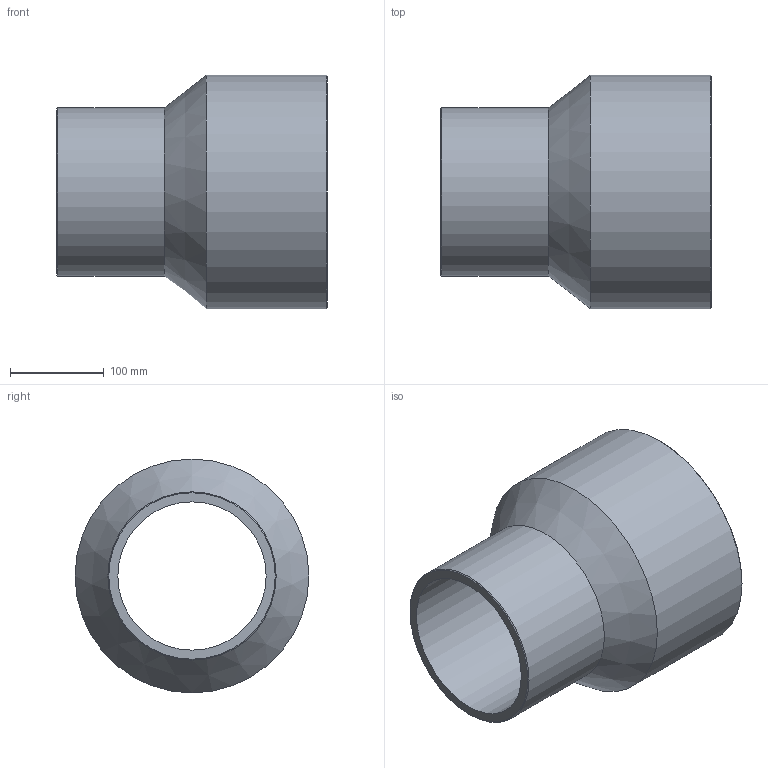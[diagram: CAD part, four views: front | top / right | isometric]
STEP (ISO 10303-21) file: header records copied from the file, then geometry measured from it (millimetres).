
FILE_DESCRIPTION(/* description */ ('Unknown'),/* implementation_level */ '2;1');
FILE_NAME(/* name */ 'RP250180B',/* time_stamp */ '2021-09-17T12:17:17+02:00',/* author */ ('Unknown'),/* organization */ ('Unknown'),/* preprocessor_version */ 'ST-DEVELOPER v16.7',/* originating_system */ 'Solid Edge',/* authorisation */ 'Unknown');
FILE_SCHEMA (('AUTOMOTIVE_DESIGN {1 0 10303 214 3 1 1}'));
Length unit declared in the file: millimetre
Products named in the file (1): RP250180B
Bounding box: 289 x 250 x 250 mm (x, y, z)
Volume: 2613201.9 mm3; surface area: 398559.1 mm2
Topology: 1 solids, 1 shells, 10 faces, 19 edges, 11 vertices
Faces by surface type: cylinder 4, cone 4, plane 2
Full cylindrical faces by diameter (mm): 158.6 x1, 180 x1, 220.4 x1, 250 x1
Entity records: 238 total; most frequent: DIRECTION 42, CARTESIAN_POINT 31, AXIS2_PLACEMENT_3D 21, ORIENTED_EDGE 20, EDGE_LOOP 20, FACE_BOUND 20, EDGE_CURVE 10, VERTEX_POINT 10
